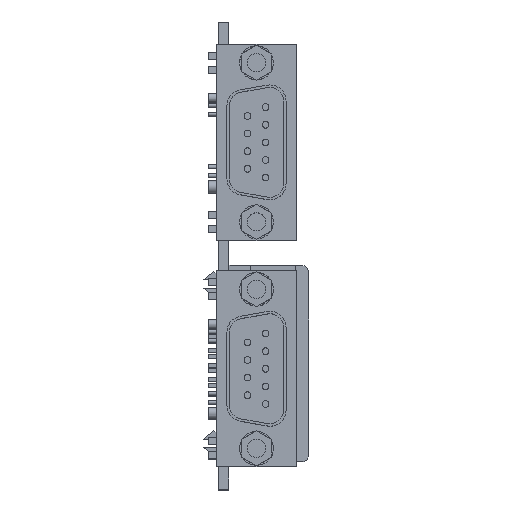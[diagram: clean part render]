
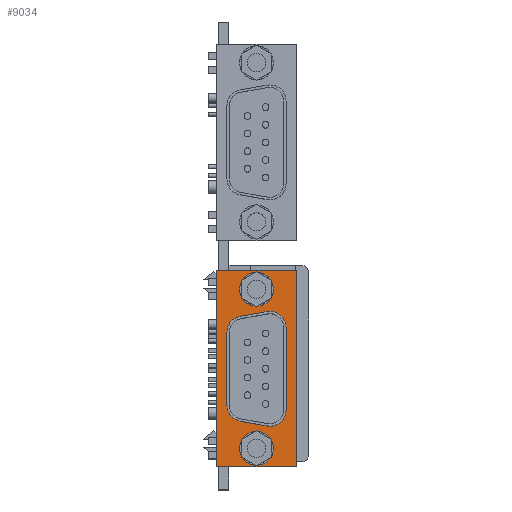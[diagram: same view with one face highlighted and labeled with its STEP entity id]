
A CAD part, top view. The second image highlights one B-rep face of the part: STEP entity #9034.
In plain terms, the highlighted planar face has unit normal (0, 0, 1).
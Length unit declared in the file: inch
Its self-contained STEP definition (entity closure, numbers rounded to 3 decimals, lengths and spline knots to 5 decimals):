
#933=DIRECTION('',(-1.,0.,0.));
#934=VECTOR('',#933,0.494);
#935=CARTESIAN_POINT('',(0.18412,-0.094,2.7457));
#936=LINE('',#935,#934);
#937=DIRECTION('',(0.,1.,0.));
#938=VECTOR('',#937,1.213);
#939=CARTESIAN_POINT('',(0.18412,-1.307,2.7457));
#940=LINE('',#939,#938);
#941=DIRECTION('',(1.,0.,0.));
#942=VECTOR('',#941,0.494);
#943=CARTESIAN_POINT('',(-0.30988,-1.307,2.7457));
#944=LINE('',#943,#942);
#945=DIRECTION('',(0.,-1.,0.));
#946=VECTOR('',#945,1.213);
#947=CARTESIAN_POINT('',(-0.30988,-0.094,2.7457));
#948=LINE('',#947,#946);
#949=CARTESIAN_POINT('',(0.01962,-0.4455,2.7457));
#950=DIRECTION('',(0.,0.,1.));
#951=DIRECTION('',(1.,0.,0.));
#952=AXIS2_PLACEMENT_3D('',#949,#950,#951);
#954=DIRECTION('',(-0.985,-0.174,0.));
#955=VECTOR('',#954,0.16755);
#956=CARTESIAN_POINT('',(0.00226,-0.34702,2.7457));
#957=LINE('',#956,#955);
#958=CARTESIAN_POINT('',(-0.14538,-0.47459,2.7457));
#959=DIRECTION('',(0.,0.,1.));
#960=DIRECTION('',(-0.174,0.985,0.));
#961=AXIS2_PLACEMENT_3D('',#958,#959,#960);
#963=DIRECTION('',(0.,-1.,0.));
#964=VECTOR('',#963,0.45181);
#965=CARTESIAN_POINT('',(-0.24538,-0.47459,2.7457));
#966=LINE('',#965,#964);
#967=CARTESIAN_POINT('',(-0.14538,-0.92641,2.7457));
#968=DIRECTION('',(0.,0.,1.));
#969=DIRECTION('',(-1.,0.,0.));
#970=AXIS2_PLACEMENT_3D('',#967,#968,#969);
#972=DIRECTION('',(0.985,-0.174,0.));
#973=VECTOR('',#972,0.16755);
#974=CARTESIAN_POINT('',(-0.16274,-1.02489,2.7457));
#975=LINE('',#974,#973);
#976=CARTESIAN_POINT('',(0.01962,-0.9555,2.7457));
#977=DIRECTION('',(0.,0.,1.));
#978=DIRECTION('',(-0.174,-0.985,0.));
#979=AXIS2_PLACEMENT_3D('',#976,#977,#978);
#981=DIRECTION('',(0.,1.,0.));
#982=VECTOR('',#981,0.51);
#983=CARTESIAN_POINT('',(0.11962,-0.9555,2.7457));
#984=LINE('',#983,#982);
#985=CARTESIAN_POINT('',(-0.06288,-1.1925,2.7457));
#986=DIRECTION('',(0.,0.,1.));
#987=DIRECTION('',(-1.,0.,0.));
#988=AXIS2_PLACEMENT_3D('',#985,#986,#987);
#990=CARTESIAN_POINT('',(-0.06288,-1.1925,2.7457));
#991=DIRECTION('',(0.,0.,1.));
#992=DIRECTION('',(1.,0.,0.));
#993=AXIS2_PLACEMENT_3D('',#990,#991,#992);
#995=CARTESIAN_POINT('',(-0.06288,-0.2085,2.7457));
#996=DIRECTION('',(0.,0.,1.));
#997=DIRECTION('',(-1.,0.,0.));
#998=AXIS2_PLACEMENT_3D('',#995,#996,#997);
#1000=CARTESIAN_POINT('',(-0.06288,-0.2085,2.7457));
#1001=DIRECTION('',(0.,0.,1.));
#1002=DIRECTION('',(1.,0.,0.));
#1003=AXIS2_PLACEMENT_3D('',#1000,#1001,#1002);
#7163=CARTESIAN_POINT('',(0.18412,-0.094,2.7457));
#7164=CARTESIAN_POINT('',(-0.30988,-0.094,2.7457));
#7165=VERTEX_POINT('',#7163);
#7166=VERTEX_POINT('',#7164);
#7167=CARTESIAN_POINT('',(-0.30988,-1.307,2.7457));
#7168=VERTEX_POINT('',#7167);
#7169=CARTESIAN_POINT('',(0.18412,-1.307,2.7457));
#7170=VERTEX_POINT('',#7169);
#7371=CARTESIAN_POINT('',(0.11962,-0.4455,2.7457));
#7372=CARTESIAN_POINT('',(0.00226,-0.34702,2.7457));
#7373=VERTEX_POINT('',#7371);
#7374=VERTEX_POINT('',#7372);
#7375=CARTESIAN_POINT('',(-0.16274,-0.37611,2.7457));
#7376=VERTEX_POINT('',#7375);
#7377=CARTESIAN_POINT('',(-0.24538,-0.47459,2.7457));
#7378=VERTEX_POINT('',#7377);
#7379=CARTESIAN_POINT('',(-0.24538,-0.92641,2.7457));
#7380=VERTEX_POINT('',#7379);
#7381=CARTESIAN_POINT('',(-0.16274,-1.02489,2.7457));
#7382=VERTEX_POINT('',#7381);
#7383=CARTESIAN_POINT('',(0.00226,-1.05398,2.7457));
#7384=VERTEX_POINT('',#7383);
#7385=CARTESIAN_POINT('',(0.11962,-0.9555,2.7457));
#7386=VERTEX_POINT('',#7385);
#7943=CARTESIAN_POINT('',(-0.11888,-1.1925,2.7457));
#7944=CARTESIAN_POINT('',(-0.00688,-1.1925,2.7457));
#7945=VERTEX_POINT('',#7943);
#7946=VERTEX_POINT('',#7944);
#8023=CARTESIAN_POINT('',(-0.11888,-0.2085,2.7457));
#8024=CARTESIAN_POINT('',(-0.00688,-0.2085,2.7457));
#8025=VERTEX_POINT('',#8023);
#8026=VERTEX_POINT('',#8024);
#8993=CARTESIAN_POINT('',(-0.06288,-0.7005,2.7457));
#8994=DIRECTION('',(0.,0.,1.));
#8995=DIRECTION('',(0.,-1.,0.));
#8996=AXIS2_PLACEMENT_3D('',#8993,#8994,#8995);
#8997=PLANE('',#8996);
#8998=ORIENTED_EDGE('',*,*,#8945,.F.);
#8999=ORIENTED_EDGE('',*,*,#8960,.F.);
#9000=ORIENTED_EDGE('',*,*,#8974,.F.);
#9001=ORIENTED_EDGE('',*,*,#8987,.F.);
#9002=EDGE_LOOP('',(#8998,#8999,#9000,#9001));
#9003=FACE_OUTER_BOUND('',#9002,.F.);
#9005=ORIENTED_EDGE('',*,*,#9004,.T.);
#9007=ORIENTED_EDGE('',*,*,#9006,.T.);
#9009=ORIENTED_EDGE('',*,*,#9008,.T.);
#9011=ORIENTED_EDGE('',*,*,#9010,.T.);
#9013=ORIENTED_EDGE('',*,*,#9012,.T.);
#9015=ORIENTED_EDGE('',*,*,#9014,.T.);
#9017=ORIENTED_EDGE('',*,*,#9016,.T.);
#9019=ORIENTED_EDGE('',*,*,#9018,.T.);
#9020=EDGE_LOOP('',(#9005,#9007,#9009,#9011,#9013,#9015,#9017,#9019));
#9021=FACE_BOUND('',#9020,.F.);
#9023=ORIENTED_EDGE('',*,*,#9022,.T.);
#9025=ORIENTED_EDGE('',*,*,#9024,.T.);
#9026=EDGE_LOOP('',(#9023,#9025));
#9027=FACE_BOUND('',#9026,.F.);
#9029=ORIENTED_EDGE('',*,*,#9028,.T.);
#9031=ORIENTED_EDGE('',*,*,#9030,.T.);
#9032=EDGE_LOOP('',(#9029,#9031));
#9033=FACE_BOUND('',#9032,.F.);
#9034=ADVANCED_FACE('',(#9003,#9021,#9027,#9033),#8997,.T.);
#953=CIRCLE('',#952,0.1);
#962=CIRCLE('',#961,0.1);
#971=CIRCLE('',#970,0.1);
#980=CIRCLE('',#979,0.1);
#989=CIRCLE('',#988,0.056);
#994=CIRCLE('',#993,0.056);
#999=CIRCLE('',#998,0.056);
#1004=CIRCLE('',#1003,0.056);
#8945=EDGE_CURVE('',#7165,#7166,#936,.T.);
#8960=EDGE_CURVE('',#7170,#7165,#940,.T.);
#8974=EDGE_CURVE('',#7168,#7170,#944,.T.);
#8987=EDGE_CURVE('',#7166,#7168,#948,.T.);
#9004=EDGE_CURVE('',#7373,#7374,#953,.T.);
#9006=EDGE_CURVE('',#7374,#7376,#957,.T.);
#9008=EDGE_CURVE('',#7376,#7378,#962,.T.);
#9010=EDGE_CURVE('',#7378,#7380,#966,.T.);
#9012=EDGE_CURVE('',#7380,#7382,#971,.T.);
#9014=EDGE_CURVE('',#7382,#7384,#975,.T.);
#9016=EDGE_CURVE('',#7384,#7386,#980,.T.);
#9018=EDGE_CURVE('',#7386,#7373,#984,.T.);
#9022=EDGE_CURVE('',#7945,#7946,#989,.T.);
#9024=EDGE_CURVE('',#7946,#7945,#994,.T.);
#9028=EDGE_CURVE('',#8025,#8026,#999,.T.);
#9030=EDGE_CURVE('',#8026,#8025,#1004,.T.);
